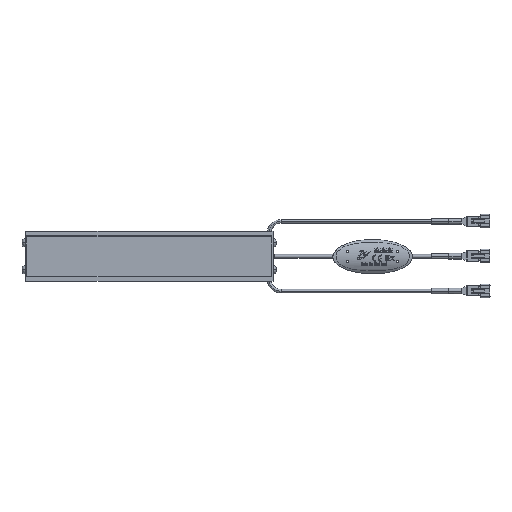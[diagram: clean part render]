
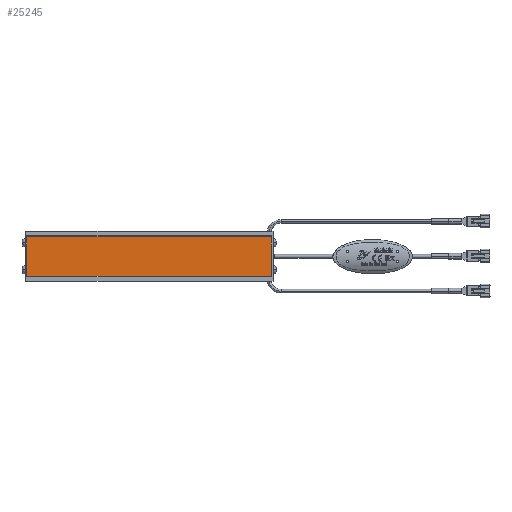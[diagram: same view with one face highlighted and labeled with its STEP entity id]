
A CAD part, top view. The second image highlights one B-rep face of the part: STEP entity #25245.
In plain terms, the highlighted planar face has unit normal (0, 0, 1).
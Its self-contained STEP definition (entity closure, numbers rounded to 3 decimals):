
#25206=CARTESIAN_POINT('',(104.844,-18.025,18.625));
#25207=DIRECTION('',(0.,1.,0.));
#25208=DIRECTION('',(0.,-0.,1.));
#25209=AXIS2_PLACEMENT_3D('',#25206,#25208,#25207);
#25210=PLANE('',#25209);
#25211=CARTESIAN_POINT('',(254.844,-35.525,18.625));
#25212=VERTEX_POINT('',#25211);
#25213=CARTESIAN_POINT('',(254.844,-0.525,18.625));
#25214=VERTEX_POINT('',#25213);
#25215=CARTESIAN_POINT('',(254.844,-35.525,18.625));
#25216=DIRECTION('',(0.,1.,0.));
#25217=VECTOR('',#25216,35.);
#25218=LINE('',#25215,#25217);
#25219=EDGE_CURVE('',#25212,#25214,#25218,.T.);
#25220=ORIENTED_EDGE('',*,*,#25219,.T.);
#25221=CARTESIAN_POINT('',(54.844,-0.525,18.625));
#25222=VERTEX_POINT('',#25221);
#25223=CARTESIAN_POINT('',(254.844,-0.525,18.625));
#25224=DIRECTION('',(-1.,0.,0.));
#25225=VECTOR('',#25224,200.);
#25226=LINE('',#25223,#25225);
#25227=EDGE_CURVE('',#25214,#25222,#25226,.T.);
#25228=ORIENTED_EDGE('',*,*,#25227,.T.);
#25229=CARTESIAN_POINT('',(54.844,-35.525,18.625));
#25230=VERTEX_POINT('',#25229);
#25231=CARTESIAN_POINT('',(54.844,-0.525,18.625));
#25232=DIRECTION('',(0.,-1.,0.));
#25233=VECTOR('',#25232,35.);
#25234=LINE('',#25231,#25233);
#25235=EDGE_CURVE('',#25222,#25230,#25234,.T.);
#25236=ORIENTED_EDGE('',*,*,#25235,.T.);
#25237=CARTESIAN_POINT('',(54.844,-35.525,18.625));
#25238=DIRECTION('',(1.,0.,0.));
#25239=VECTOR('',#25238,200.);
#25240=LINE('',#25237,#25239);
#25241=EDGE_CURVE('',#25230,#25212,#25240,.T.);
#25242=ORIENTED_EDGE('',*,*,#25241,.T.);
#25243=EDGE_LOOP('',(#25220,#25228,#25236,#25242));
#25244=FACE_OUTER_BOUND('',#25243,.T.);
#25245=ADVANCED_FACE('',(#25244),#25210,.T.);
